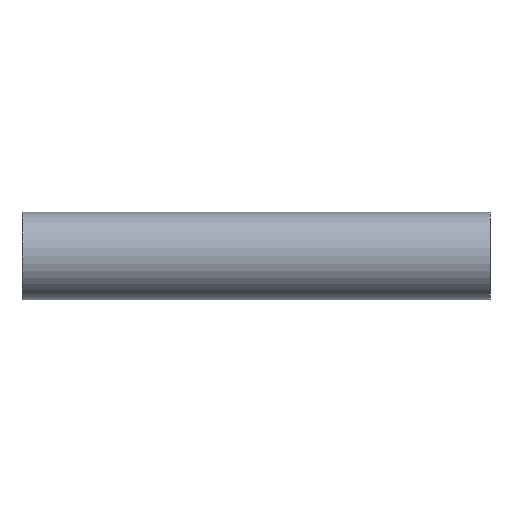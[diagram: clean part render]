
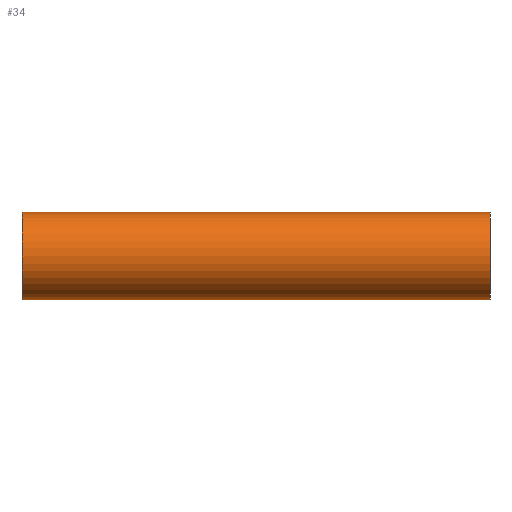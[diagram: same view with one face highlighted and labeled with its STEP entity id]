
A CAD part, front view. The second image highlights one B-rep face of the part: STEP entity #34.
In plain terms, the highlighted cylindrical face has radius 9.525 mm (diameter 19.05 mm), a partial arc.
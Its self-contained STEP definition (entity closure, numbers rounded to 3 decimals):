
#4 = CARTESIAN_POINT ( 'NONE',  ( 50.8, 0., 0. ) ) ;
#22 = CIRCLE ( 'NONE', #27, 9.525 ) ;
#27 = AXIS2_PLACEMENT_3D ( 'NONE', #112, #398, #395 ) ;
#32 = EDGE_CURVE ( 'NONE', #366, #191, #22, .T. ) ;
#34 = ADVANCED_FACE ( 'NONE', ( #136 ), #35, .T. ) ;
#35 = CYLINDRICAL_SURFACE ( 'NONE', #488, 9.525 ) ;
#42 = AXIS2_PLACEMENT_3D ( 'NONE', #4, #133, #91 ) ;
#47 = ORIENTED_EDGE ( 'NONE', *, *, #259, .T. ) ;
#67 = CARTESIAN_POINT ( 'NONE',  ( -50.8, 0., 0. ) ) ;
#81 = EDGE_LOOP ( 'NONE', ( #240, #364, #159, #47 ) ) ;
#91 = DIRECTION ( 'NONE',  ( 0., 0., -1. ) ) ;
#112 = CARTESIAN_POINT ( 'NONE',  ( -50.8, 0., 0. ) ) ;
#129 = CARTESIAN_POINT ( 'NONE',  ( 50.8, 0., 9.525 ) ) ;
#133 = DIRECTION ( 'NONE',  ( -1., 0., 0. ) ) ;
#136 = FACE_OUTER_BOUND ( 'NONE', #81, .T. ) ;
#149 = EDGE_CURVE ( 'NONE', #366, #351, #413, .T. ) ;
#156 = EDGE_CURVE ( 'NONE', #191, #204, #286, .T. ) ;
#159 = ORIENTED_EDGE ( 'NONE', *, *, #156, .T. ) ;
#174 = CARTESIAN_POINT ( 'NONE',  ( -50.8, 0., 9.525 ) ) ;
#178 = VECTOR ( 'NONE', #434, 1000. ) ;
#191 = VERTEX_POINT ( 'NONE', #426 ) ;
#204 = VERTEX_POINT ( 'NONE', #216 ) ;
#216 = CARTESIAN_POINT ( 'NONE',  ( 50.8, 0., -9.525 ) ) ;
#234 = DIRECTION ( 'NONE',  ( 1., 0., 0. ) ) ;
#240 = ORIENTED_EDGE ( 'NONE', *, *, #149, .F. ) ;
#259 = EDGE_CURVE ( 'NONE', #204, #351, #314, .T. ) ;
#286 = LINE ( 'NONE', #394, #178 ) ;
#314 = CIRCLE ( 'NONE', #42, 9.525 ) ;
#325 = DIRECTION ( 'NONE',  ( 0., 0., -1. ) ) ;
#351 = VERTEX_POINT ( 'NONE', #129 ) ;
#364 = ORIENTED_EDGE ( 'NONE', *, *, #32, .T. ) ;
#366 = VERTEX_POINT ( 'NONE', #174 ) ;
#394 = CARTESIAN_POINT ( 'NONE',  ( -50.8, 0., -9.525 ) ) ;
#395 = DIRECTION ( 'NONE',  ( 0., 0., -1. ) ) ;
#398 = DIRECTION ( 'NONE',  ( 1., 0., 0. ) ) ;
#412 = CARTESIAN_POINT ( 'NONE',  ( -50.8, 0., 9.525 ) ) ;
#413 = LINE ( 'NONE', #412, #486 ) ;
#426 = CARTESIAN_POINT ( 'NONE',  ( -50.8, 0., -9.525 ) ) ;
#434 = DIRECTION ( 'NONE',  ( 1., 0., 0. ) ) ;
#443 = DIRECTION ( 'NONE',  ( 1., 0., 0. ) ) ;
#486 = VECTOR ( 'NONE', #443, 1000. ) ;
#488 = AXIS2_PLACEMENT_3D ( 'NONE', #67, #234, #325 ) ;
